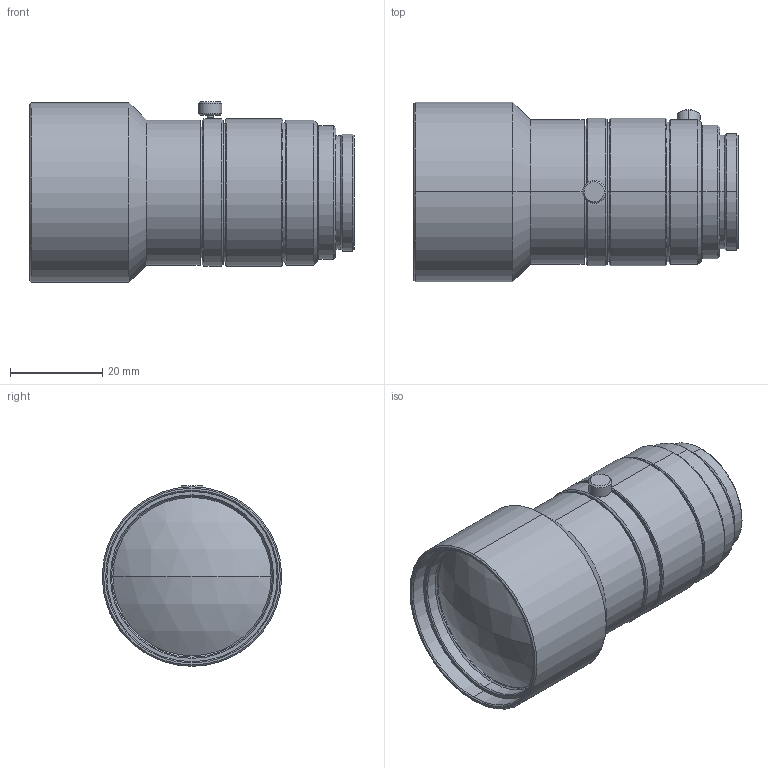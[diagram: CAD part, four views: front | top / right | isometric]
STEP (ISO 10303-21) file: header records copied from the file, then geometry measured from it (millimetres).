
FILE_DESCRIPTION (( 'STEP AP203' ), '1' );
FILE_NAME ('SV-10028H.STEP', '2014-04-10T01:01:05', ( '' ), ( '' ), 'SwSTEP 2.0', 'SolidWorks 2014', '' );
FILE_SCHEMA (( 'CONFIG_CONTROL_DESIGN' ));
Length unit declared in the file: millimetre
Products named in the file (1): SV-10028H
Bounding box: 70.5 x 39 x 39.25 mm (x, y, z)
Volume: 57823.8 mm3; surface area: 11664.2 mm2
Topology: 1 solids, 1 shells, 138 faces, 279 edges, 162 vertices
Faces by surface type: cone 64, cylinder 50, plane 20, sphere 4
Entity records: 3720 total; most frequent: DIRECTION 713, CARTESIAN_POINT 644, ORIENTED_EDGE 558, AXIS2_PLACEMENT_3D 299, EDGE_CURVE 279, VERTEX_POINT 162, CIRCLE 160, EDGE_LOOP 157
